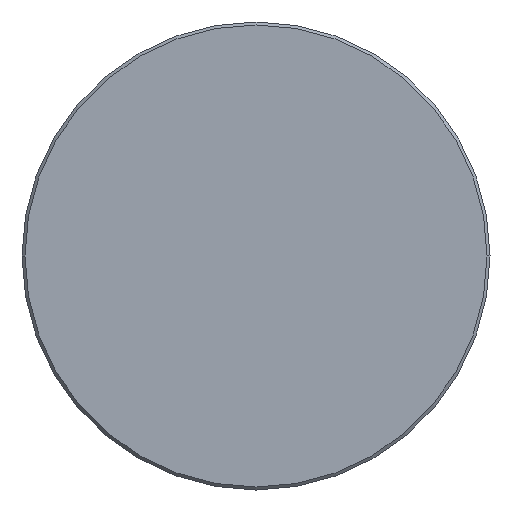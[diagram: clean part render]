
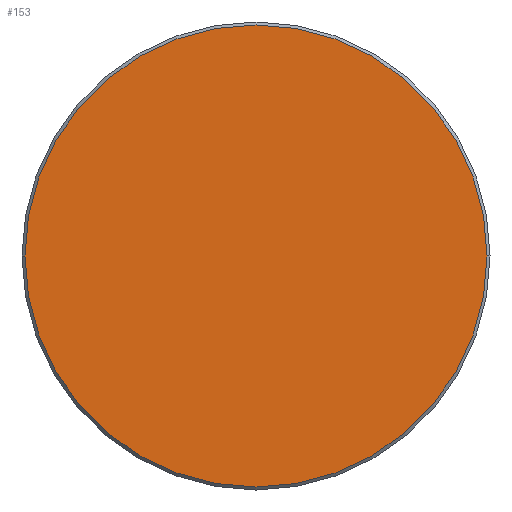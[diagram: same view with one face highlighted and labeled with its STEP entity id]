
A CAD part, left-side view. The second image highlights one B-rep face of the part: STEP entity #153.
In plain terms, the highlighted planar face has unit normal (-1, 0, 0).
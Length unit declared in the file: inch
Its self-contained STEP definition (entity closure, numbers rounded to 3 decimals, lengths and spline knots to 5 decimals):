
#16 = CARTESIAN_POINT ( 'NONE',  ( 0., 0.3085, 0. ) ) ;
#49 = ORIENTED_EDGE ( 'NONE', *, *, #374, .T. ) ;
#71 = EDGE_CURVE ( 'NONE', #176, #150, #242, .T. ) ;
#95 = CIRCLE ( 'NONE', #353, 0.3085 ) ;
#103 = PLANE ( 'NONE',  #268 ) ;
#112 = AXIS2_PLACEMENT_3D ( 'NONE', #359, #369, #157 ) ;
#132 = DIRECTION ( 'NONE',  ( -1., 0., 0. ) ) ;
#144 = EDGE_LOOP ( 'NONE', ( #49, #324 ) ) ;
#150 = VERTEX_POINT ( 'NONE', #16 ) ;
#153 = ADVANCED_FACE ( 'NONE', ( #184 ), #103, .T. ) ;
#157 = DIRECTION ( 'NONE',  ( 0., -1., 0. ) ) ;
#176 = VERTEX_POINT ( 'NONE', #224 ) ;
#184 = FACE_OUTER_BOUND ( 'NONE', #144, .T. ) ;
#200 = DIRECTION ( 'NONE',  ( 0., -1., 0. ) ) ;
#218 = DIRECTION ( 'NONE',  ( 0., -1., 0. ) ) ;
#224 = CARTESIAN_POINT ( 'NONE',  ( 0., -0.3085, 0. ) ) ;
#242 = CIRCLE ( 'NONE', #112, 0.3085 ) ;
#268 = AXIS2_PLACEMENT_3D ( 'NONE', #316, #132, #218 ) ;
#316 = CARTESIAN_POINT ( 'NONE',  ( 0., 0., 0. ) ) ;
#324 = ORIENTED_EDGE ( 'NONE', *, *, #71, .T. ) ;
#326 = DIRECTION ( 'NONE',  ( -1., 0., 0. ) ) ;
#351 = CARTESIAN_POINT ( 'NONE',  ( 0., 0., 0. ) ) ;
#353 = AXIS2_PLACEMENT_3D ( 'NONE', #351, #326, #200 ) ;
#359 = CARTESIAN_POINT ( 'NONE',  ( 0., 0., 0. ) ) ;
#369 = DIRECTION ( 'NONE',  ( -1., 0., 0. ) ) ;
#374 = EDGE_CURVE ( 'NONE', #150, #176, #95, .T. ) ;
